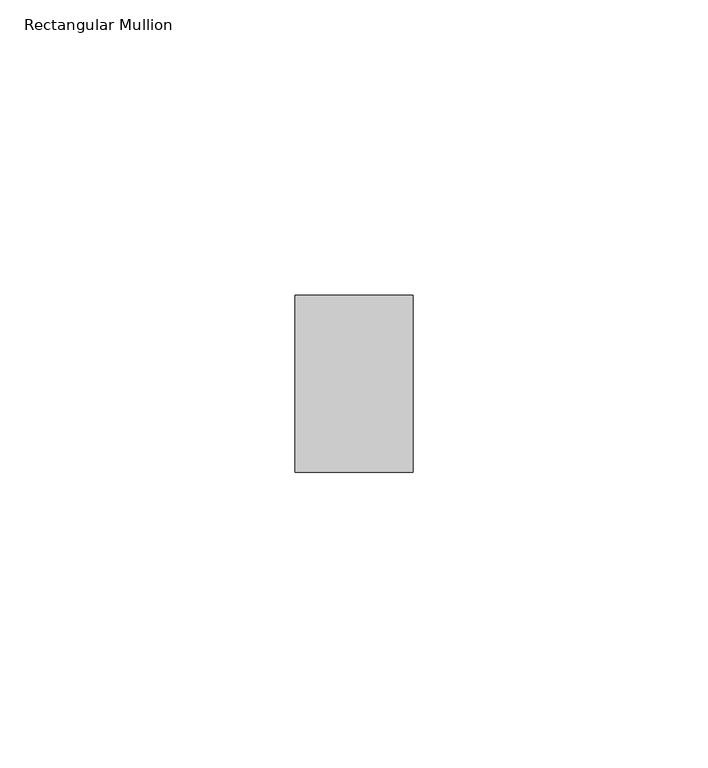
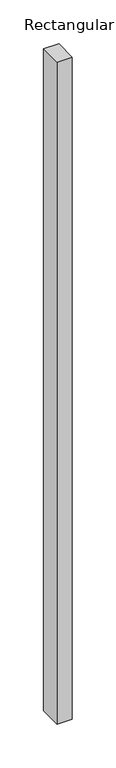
"""IFC4 building model written with IfcOpenShell, lengths in millimetres: member geometry, Rectangular Mullion : ARQ_TV_MULL_30x20mm."""

from ifc_helpers import new_model, si_unit, frame, origin, place, context, project, spatial, polyline, outline, extrude, source, transform, mapped, element, save


def rectangular_mullion_cf28ff6b(model_context):
    return source(origin(), model_context, "Body", "SweptSolid", [
        extrude(outline(polyline([(10.0, 15.0), (10.0, -15.0), (-10.0, -15.0), (-10.0, 15.0), (10.0, 15.0)])), frame((0.0, 0.0, -920.2043467), z_axis=(0.0, 0.0, 1.0), x_axis=(1.0, 0.0, 0.0)), (0.0, 0.0, 1.0), 920.2043467),
    ])


if __name__ == "__main__":
    model = new_model("IFC4")
    model_context = context("Model", 3, world=origin())
    ifc_project = project(units=[si_unit("LENGTHUNIT", "METRE", prefix="MILLI")], contexts=[model_context])
    site = spatial("IfcSite", under=ifc_project)
    building = spatial("IfcBuilding", under=site)
    placement = place(None, origin())
    rectangular_mullion_shape = rectangular_mullion_cf28ff6b(model_context)
    element("IfcMember", 1, ObjectType="Rectangular Mullion : ARQ_TV_MULL_30x20mm", at=placement, inside=building, context=model_context, shape_type="MappedRepresentation", body=[
        mapped(rectangular_mullion_shape, transform((0.0, 0.0, 0.0), x_axis=(1.0, 0.0, 0.0), y_axis=(0.0, 1.0, 0.0), z_axis=(0.0, 0.0, 1.0))),
    ])
    save(model, "model.ifc")
